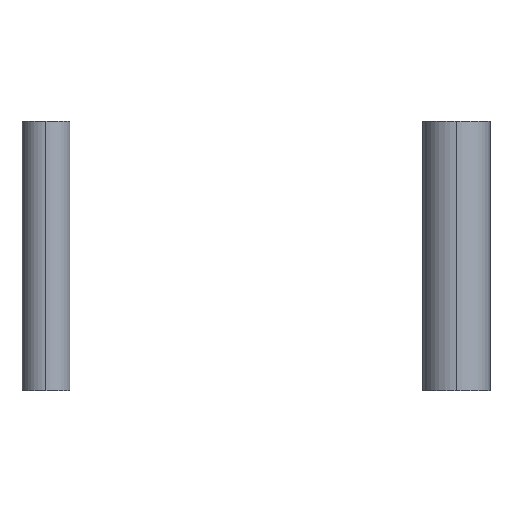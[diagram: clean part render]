
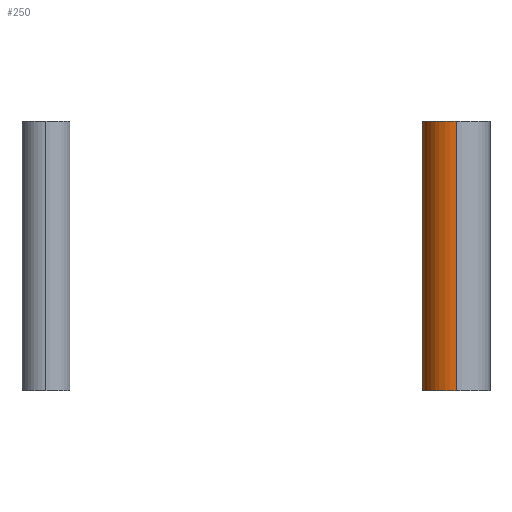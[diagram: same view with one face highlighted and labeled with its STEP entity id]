
A CAD part, left-side view. The second image highlights one B-rep face of the part: STEP entity #250.
In plain terms, the highlighted cylindrical face has radius 3.175 mm (diameter 6.35 mm), a partial arc.
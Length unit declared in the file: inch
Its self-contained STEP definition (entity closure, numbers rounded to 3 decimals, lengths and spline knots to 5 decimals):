
#4 = DIRECTION ( 'NONE',  ( 0., 0., 1. ) ) ;
#10 = EDGE_CURVE ( 'NONE', #49, #28, #207, .T. ) ;
#11 = DIRECTION ( 'NONE',  ( 0., 0., -1. ) ) ;
#12 = AXIS2_PLACEMENT_3D ( 'NONE', #187, #145, #23 ) ;
#13 = ORIENTED_EDGE ( 'NONE', *, *, #10, .F. ) ;
#23 = DIRECTION ( 'NONE',  ( 1., 0., 0. ) ) ;
#24 = EDGE_CURVE ( 'NONE', #28, #237, #136, .T. ) ;
#25 = DIRECTION ( 'NONE',  ( 0., 0., -1. ) ) ;
#28 = VERTEX_POINT ( 'NONE', #214 ) ;
#29 = CIRCLE ( 'NONE', #12, 0.125 ) ;
#35 = CARTESIAN_POINT ( 'NONE',  ( 0., 0., 1. ) ) ;
#44 = CARTESIAN_POINT ( 'NONE',  ( 0., 0., 1. ) ) ;
#49 = VERTEX_POINT ( 'NONE', #220 ) ;
#67 = DIRECTION ( 'NONE',  ( -1., 0., 0. ) ) ;
#73 = VERTEX_POINT ( 'NONE', #122 ) ;
#77 = EDGE_LOOP ( 'NONE', ( #13, #178, #242, #233 ) ) ;
#81 = EDGE_CURVE ( 'NONE', #49, #73, #247, .T. ) ;
#122 = CARTESIAN_POINT ( 'NONE',  ( 0.125, 0., 0. ) ) ;
#134 = CARTESIAN_POINT ( 'NONE',  ( -0.125, 0., 1. ) ) ;
#136 = LINE ( 'NONE', #134, #255 ) ;
#137 = EDGE_CURVE ( 'NONE', #73, #237, #29, .T. ) ;
#140 = VECTOR ( 'NONE', #25, 39.37008 ) ;
#145 = DIRECTION ( 'NONE',  ( 0., 0., 1. ) ) ;
#149 = FACE_OUTER_BOUND ( 'NONE', #77, .T. ) ;
#178 = ORIENTED_EDGE ( 'NONE', *, *, #81, .T. ) ;
#184 = DIRECTION ( 'NONE',  ( 0., 0., -1. ) ) ;
#187 = CARTESIAN_POINT ( 'NONE',  ( 0., 0., 0. ) ) ;
#189 = CARTESIAN_POINT ( 'NONE',  ( -0.125, 0., 0. ) ) ;
#199 = AXIS2_PLACEMENT_3D ( 'NONE', #44, #11, #67 ) ;
#207 = CIRCLE ( 'NONE', #228, 0.125 ) ;
#214 = CARTESIAN_POINT ( 'NONE',  ( -0.125, 0., 1. ) ) ;
#220 = CARTESIAN_POINT ( 'NONE',  ( 0.125, 0., 1. ) ) ;
#222 = CARTESIAN_POINT ( 'NONE',  ( 0.125, 0., 1. ) ) ;
#228 = AXIS2_PLACEMENT_3D ( 'NONE', #35, #4, #235 ) ;
#233 = ORIENTED_EDGE ( 'NONE', *, *, #24, .F. ) ;
#235 = DIRECTION ( 'NONE',  ( 1., 0., 0. ) ) ;
#237 = VERTEX_POINT ( 'NONE', #189 ) ;
#242 = ORIENTED_EDGE ( 'NONE', *, *, #137, .T. ) ;
#247 = LINE ( 'NONE', #222, #140 ) ;
#250 = ADVANCED_FACE ( 'NONE', ( #149 ), #254, .T. ) ;
#254 = CYLINDRICAL_SURFACE ( 'NONE', #199, 0.125 ) ;
#255 = VECTOR ( 'NONE', #184, 39.37008 ) ;
